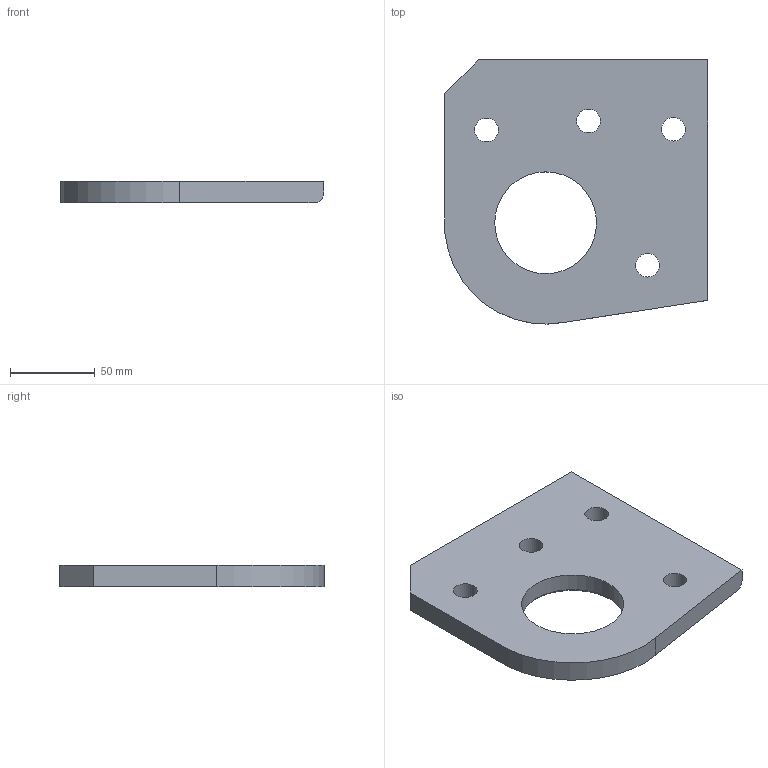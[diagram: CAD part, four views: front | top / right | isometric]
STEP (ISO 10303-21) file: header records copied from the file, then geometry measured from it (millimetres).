
FILE_DESCRIPTION(('STEP AP214'),'1');
FILE_NAME('.stp','2025-09-05T12:02:39',(' '),(' '),'Spatial InterOp 3D',' ',' ');
FILE_SCHEMA(('AUTOMOTIVE_DESIGN { 1 0 10303 214 1 1 1 1 }'));
Length unit declared in the file: millimetre
Products named in the file (1): 1
Bounding box: 155 x 155.69 x 12.5 mm (x, y, z)
Volume: 237534.9 mm3; surface area: 49354.3 mm2
Topology: 1 solids, 1 shells, 15 faces, 39 edges, 26 vertices
Faces by surface type: cylinder 7, plane 7, cone 1
Full cylindrical faces by diameter (mm): 14 x4, 60 x1
Entity records: 464 total; most frequent: DIRECTION 79, CARTESIAN_POINT 73, ORIENTED_EDGE 64, EDGE_CURVE 32, AXIS2_PLACEMENT_3D 31, EDGE_LOOP 31, VERTEX_POINT 25, FACE_OUTER_BOUND 20
